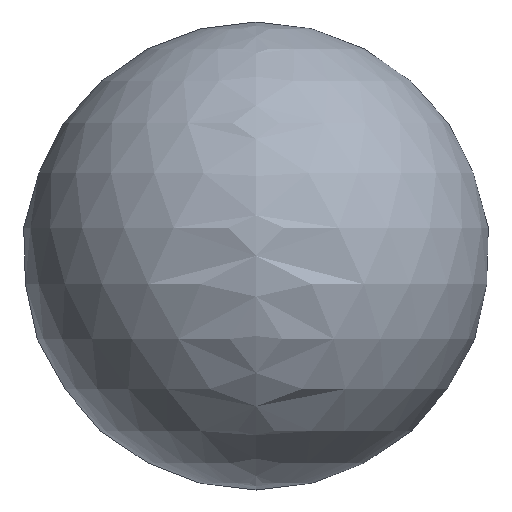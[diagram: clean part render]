
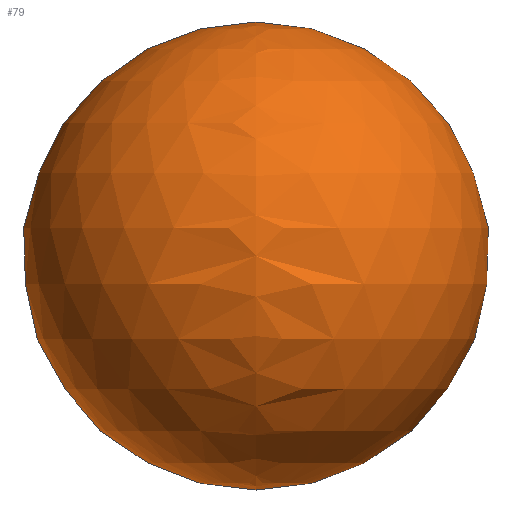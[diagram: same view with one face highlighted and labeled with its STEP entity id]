
A CAD part, left-side view. The second image highlights one B-rep face of the part: STEP entity #79.
In plain terms, the highlighted spherical face has radius 4 mm.
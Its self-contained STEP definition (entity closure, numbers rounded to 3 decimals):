
#15=FACE_BOUND('',#24,.T.);
#17=SPHERICAL_SURFACE('',#110,4.);
#20=FACE_OUTER_BOUND('',#23,.T.);
#23=EDGE_LOOP('',(#72,#73));
#24=EDGE_LOOP('',(#74,#75));
#30=CIRCLE('',#104,3.);
#31=CIRCLE('',#105,3.);
#35=CIRCLE('',#111,4.);
#40=VERTEX_POINT('',#148);
#41=VERTEX_POINT('',#150);
#44=VERTEX_POINT('',#160);
#45=VERTEX_POINT('',#161);
#50=EDGE_CURVE('',#40,#41,#30,.T.);
#51=EDGE_CURVE('',#41,#40,#31,.T.);
#55=EDGE_CURVE('',#44,#45,#35,.T.);
#72=ORIENTED_EDGE('',*,*,#55,.T.);
#73=ORIENTED_EDGE('',*,*,#55,.F.);
#74=ORIENTED_EDGE('',*,*,#51,.F.);
#75=ORIENTED_EDGE('',*,*,#50,.F.);
#79=ADVANCED_FACE('',(#20,#15),#17,.T.);
#104=AXIS2_PLACEMENT_3D('',#151,#123,#124);
#105=AXIS2_PLACEMENT_3D('',#152,#125,#126);
#110=AXIS2_PLACEMENT_3D('',#159,#135,#136);
#111=AXIS2_PLACEMENT_3D('',#162,#137,#138);
#123=DIRECTION('center_axis',(1.,0.,0.));
#124=DIRECTION('ref_axis',(0.,0.,-1.));
#125=DIRECTION('center_axis',(1.,0.,0.));
#126=DIRECTION('ref_axis',(0.,0.,-1.));
#135=DIRECTION('center_axis',(0.,0.,1.));
#136=DIRECTION('ref_axis',(1.,0.,0.));
#137=DIRECTION('center_axis',(0.,-1.,0.));
#138=DIRECTION('ref_axis',(-1.,0.,0.));
#148=CARTESIAN_POINT('',(-23.354,-3.,0.));
#150=CARTESIAN_POINT('',(-23.354,3.,0.));
#151=CARTESIAN_POINT('Origin',(-23.354,0.,
0.));
#152=CARTESIAN_POINT('Origin',(-23.354,0.,
0.));
#159=CARTESIAN_POINT('Origin',(-26.,0.,0.));
#160=CARTESIAN_POINT('',(-26.,0.,4.));
#161=CARTESIAN_POINT('',(-26.,0.,-4.));
#162=CARTESIAN_POINT('Origin',(-26.,0.,0.));
